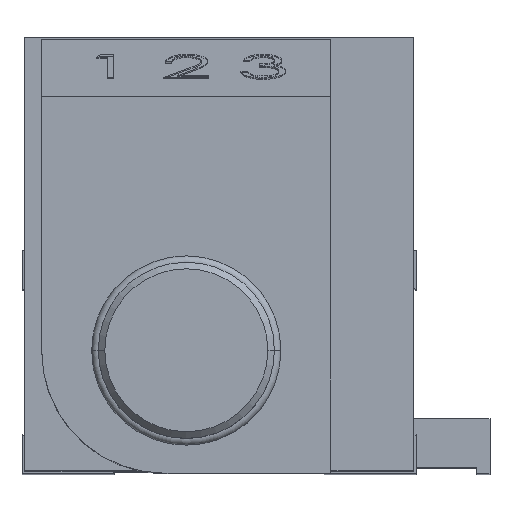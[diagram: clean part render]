
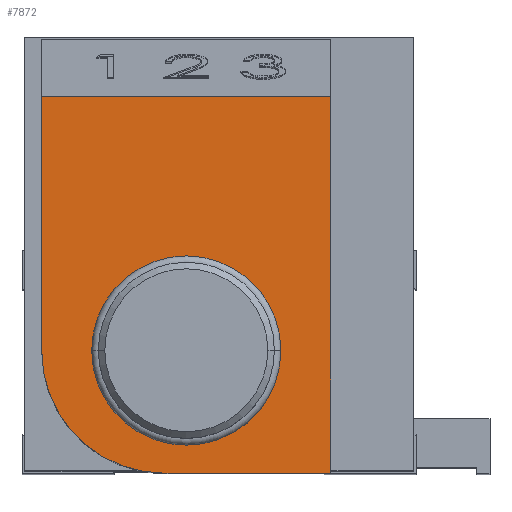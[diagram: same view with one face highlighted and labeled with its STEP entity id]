
A CAD part, top view. The second image highlights one B-rep face of the part: STEP entity #7872.
In plain terms, the highlighted planar face has unit normal (0, 0, 1).
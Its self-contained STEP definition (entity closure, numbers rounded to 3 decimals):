
#23 = VERTEX_POINT ( 'NONE', #484 ) ;
#233 = EDGE_LOOP ( 'NONE', ( #8302, #4562, #277, #7708, #8323 ) ) ;
#277 = ORIENTED_EDGE ( 'NONE', *, *, #7254, .T. ) ;
#484 = CARTESIAN_POINT ( 'NONE',  ( 8.5, 0., 52. ) ) ;
#490 = CIRCLE ( 'NONE', #491, 6.8 ) ;
#491 = AXIS2_PLACEMENT_3D ( 'NONE', #495, #496, #497 ) ;
#495 = CARTESIAN_POINT ( 'NONE',  ( -2.5, 9.3, 52. ) ) ;
#496 = DIRECTION ( 'NONE',  ( 0., 0., 1. ) ) ;
#497 = DIRECTION ( 'NONE',  ( -1., 0., 0. ) ) ;
#657 = CARTESIAN_POINT ( 'NONE',  ( -13.5, 9.3, 52. ) ) ;
#844 = LINE ( 'NONE', #845, #846 ) ;
#845 = CARTESIAN_POINT ( 'NONE',  ( -13.5, 33., 52. ) ) ;
#846 = VECTOR ( 'NONE', #847, 1000. ) ;
#847 = DIRECTION ( 'NONE',  ( 0., -1., 0. ) ) ;
#1057 = EDGE_LOOP ( 'NONE', ( #7791, #8152 ) ) ;
#1275 = CARTESIAN_POINT ( 'NONE',  ( 4.3, 9.3, 52. ) ) ;
#1282 = EDGE_CURVE ( 'NONE', #8365, #23, #3042, .T. ) ;
#1316 = VERTEX_POINT ( 'NONE', #3056 ) ;
#2348 = LINE ( 'NONE', #2349, #2354 ) ;
#2349 = CARTESIAN_POINT ( 'NONE',  ( -4.2, 28.632, 52. ) ) ;
#2354 = VECTOR ( 'NONE', #2355, 1000. ) ;
#2355 = DIRECTION ( 'NONE',  ( -1., 0., 0. ) ) ;
#2609 = CIRCLE ( 'NONE', #2613, 9.3 ) ;
#2613 = AXIS2_PLACEMENT_3D ( 'NONE', #2614, #2615, #2616 ) ;
#2614 = CARTESIAN_POINT ( 'NONE',  ( -4.2, 9.3, 52. ) ) ;
#2615 = DIRECTION ( 'NONE',  ( 0., 0., 1. ) ) ;
#2616 = DIRECTION ( 'NONE',  ( -1., 0., 0. ) ) ;
#2842 = CARTESIAN_POINT ( 'NONE',  ( -13.5, 28.632, 52. ) ) ;
#2897 = CIRCLE ( 'NONE', #2898, 6.8 ) ;
#2898 = AXIS2_PLACEMENT_3D ( 'NONE', #2899, #2900, #2901 ) ;
#2899 = CARTESIAN_POINT ( 'NONE',  ( -2.5, 9.3, 52. ) ) ;
#2900 = DIRECTION ( 'NONE',  ( 0., 0., 1. ) ) ;
#2901 = DIRECTION ( 'NONE',  ( -1., 0., 0. ) ) ;
#3042 = LINE ( 'NONE', #3043, #3044 ) ;
#3043 = CARTESIAN_POINT ( 'NONE',  ( -4.2, 0., 52. ) ) ;
#3044 = VECTOR ( 'NONE', #3045, 1000. ) ;
#3045 = DIRECTION ( 'NONE',  ( 1., 0., 0. ) ) ;
#3056 = CARTESIAN_POINT ( 'NONE',  ( -9.3, 9.3, 52. ) ) ;
#3990 = FACE_OUTER_BOUND ( 'NONE', #233, .T. ) ;
#3991 = FACE_BOUND ( 'NONE', #1057, .T. ) ;
#3992 = PLANE ( 'NONE',  #3993 ) ;
#3993 = AXIS2_PLACEMENT_3D ( 'NONE', #3994, #3995, #3996 ) ;
#3994 = CARTESIAN_POINT ( 'NONE',  ( -4.2, 9.3, 52. ) ) ;
#3995 = DIRECTION ( 'NONE',  ( 0., 0., -1. ) ) ;
#3996 = DIRECTION ( 'NONE',  ( -1., 0., 0. ) ) ;
#4562 = ORIENTED_EDGE ( 'NONE', *, *, #7634, .T. ) ;
#4701 = CARTESIAN_POINT ( 'NONE',  ( 8.5, 28.632, 52. ) ) ;
#6133 = LINE ( 'NONE', #6134, #6135 ) ;
#6134 = CARTESIAN_POINT ( 'NONE',  ( 8.5, 0., 52. ) ) ;
#6135 = VECTOR ( 'NONE', #6136, 1000. ) ;
#6136 = DIRECTION ( 'NONE',  ( 0., 1., 0. ) ) ;
#6548 = CARTESIAN_POINT ( 'NONE',  ( -4.2, 0., 52. ) ) ;
#6839 = EDGE_CURVE ( 'NONE', #7439, #1316, #490, .T. ) ;
#7028 = VERTEX_POINT ( 'NONE', #657 ) ;
#7254 = EDGE_CURVE ( 'NONE', #7739, #7028, #844, .T. ) ;
#7439 = VERTEX_POINT ( 'NONE', #1275 ) ;
#7634 = EDGE_CURVE ( 'NONE', #8008, #7739, #2348, .T. ) ;
#7687 = EDGE_CURVE ( 'NONE', #7028, #8365, #2609, .T. ) ;
#7708 = ORIENTED_EDGE ( 'NONE', *, *, #7687, .T. ) ;
#7739 = VERTEX_POINT ( 'NONE', #2842 ) ;
#7747 = EDGE_CURVE ( 'NONE', #1316, #7439, #2897, .T. ) ;
#7791 = ORIENTED_EDGE ( 'NONE', *, *, #7747, .F. ) ;
#7872 = ADVANCED_FACE ( 'NONE', ( #3990, #3991 ), #3992, .F. ) ;
#8008 = VERTEX_POINT ( 'NONE', #4701 ) ;
#8152 = ORIENTED_EDGE ( 'NONE', *, *, #6839, .F. ) ;
#8276 = EDGE_CURVE ( 'NONE', #23, #8008, #6133, .T. ) ;
#8302 = ORIENTED_EDGE ( 'NONE', *, *, #8276, .T. ) ;
#8323 = ORIENTED_EDGE ( 'NONE', *, *, #1282, .T. ) ;
#8365 = VERTEX_POINT ( 'NONE', #6548 ) ;
